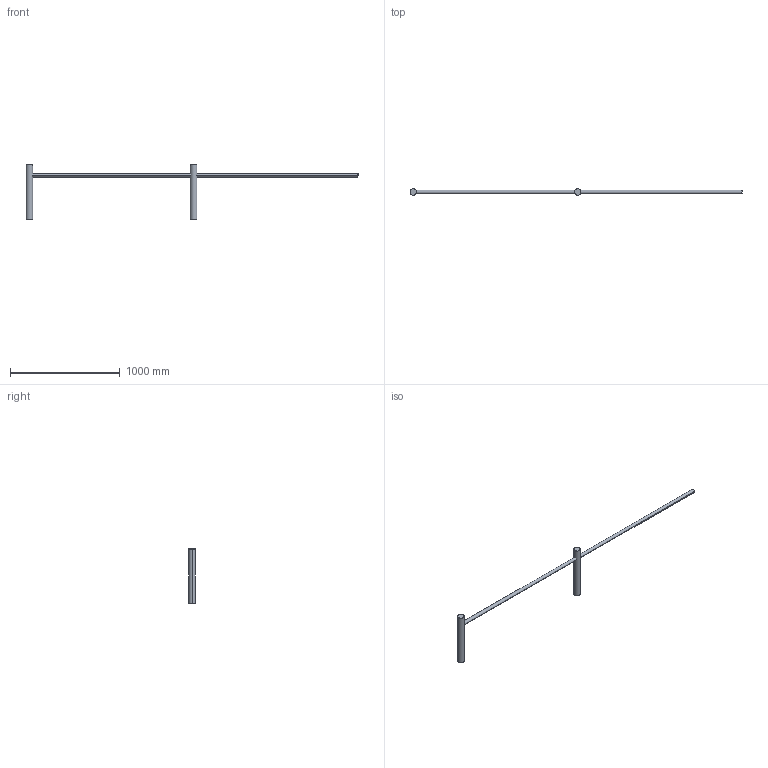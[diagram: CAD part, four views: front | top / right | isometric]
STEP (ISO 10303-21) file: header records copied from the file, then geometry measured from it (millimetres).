
FILE_DESCRIPTION(/* description */ (''),/* implementation_level */ '2;1');
FILE_NAME(/* name */ 'A5_HKR~1',/* time_stamp */ '2016-12-08T09:40:08+02:00',/* author */ (''),/* organization */ (''),/* preprocessor_version */ 'ST-DEVELOPER v15',/* originating_system */ '',/* authorisation */ '');
FILE_SCHEMA (('AUTOMOTIVE_DESIGN'));
Length unit declared in the file: millimetre
Products named in the file (1): Document
Bounding box: 3030.15 x 60.19 x 500 mm (x, y, z)
Volume: 2084373.1 mm3; surface area: 907900.5 mm2
Topology: 4 solids, 4 shells, 26 faces, 48 edges, 32 vertices
Faces by surface type: bspline 16, plane 10
Entity records: 759 total; most frequent: CARTESIAN_POINT 396, ORIENTED_EDGE 96, EDGE_CURVE 48, EDGE_LOOP 32, VERTEX_POINT 32, ADVANCED_FACE 26, FACE_OUTER_BOUND 26, DIRECTION 14
